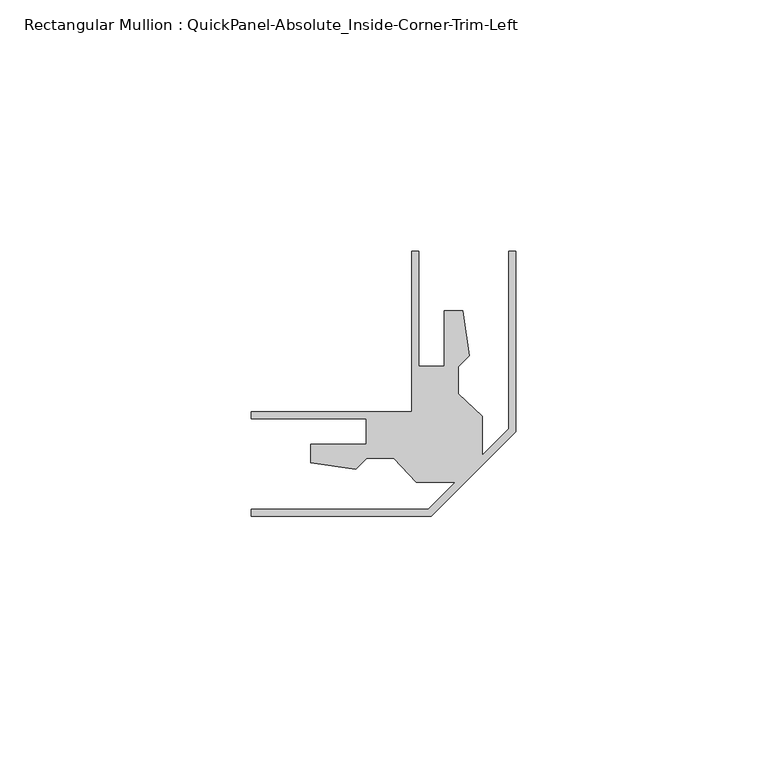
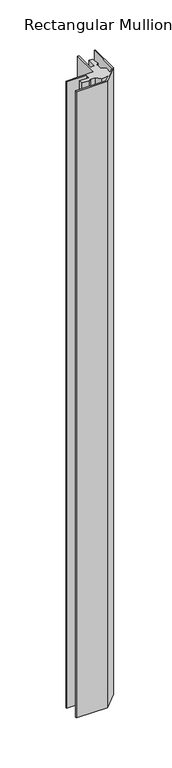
"""IFC4 building model written with IfcOpenShell, lengths in millimetres: member geometry, Rectangular Mullion : QuickPanel-Absolute_Inside-Corner-Trim-Left."""

from ifc_helpers import new_model, si_unit, frame, origin, place, context, project, spatial, polyline, outline, extrude, source, transform, mapped, element, save


def rectangular_mullion_quickpanel_absolute_inside_corner_trim_36ff3354(model_context):
    return source(origin(), model_context, "Body", "SweptSolid", [
        extrude(outline(polyline([(-52.7287461, -8.6243695), (-52.7287461, -7.2213769), (-17.4346146, -7.2213769), (-12.0632366, -1.8499989), (-19.8191321, -1.8499989), (-24.2846123, 2.9386423), (-29.7291112, 2.9386423), (-31.8901977, 0.7775558), (-40.8152941, 2.0318963), (-40.8152941, 5.7255034), (-29.8281143, 5.7255034), (-29.8281143, 10.7810495), (-52.7287461, 10.7810495), (-52.7287461, 12.1810781), (-20.7199597, 12.1810781), (-20.7199597, 44.1868662), (-19.319931, 44.1868662), (-19.319931, 21.2892327), (-14.2643849, 21.2892327), (-14.2643849, 32.2764126), (-10.5707778, 32.2764126), (-9.3164373, 23.3513162), (-11.4775238, 21.1902297), (-11.4775238, 15.7457308), (-6.6888826, 11.2802506), (-6.6888826, 3.5243551), (-1.4029926, 8.810245), (-1.4029926, 44.1868662), (0.0, 44.1868662), (0.0, 8.2333752), (-16.8577447, -8.6243695), (-52.7287461, -8.6243695)])), frame((0.0, 0.0, -763.2962426), z_axis=(0.0, 0.0, 1.0), x_axis=(1.0, 0.0, 0.0)), (0.0, 0.0, 1.0), 763.2962426),
    ])


if __name__ == "__main__":
    model = new_model("IFC4")
    model_context = context("Model", 3, world=origin())
    ifc_project = project(units=[si_unit("LENGTHUNIT", "METRE", prefix="MILLI")], contexts=[model_context])
    site = spatial("IfcSite", under=ifc_project)
    building = spatial("IfcBuilding", under=site)
    placement = place(None, origin())
    rectangular_mullion_quickpanel_absolute_inside_corner_trim_shape = rectangular_mullion_quickpanel_absolute_inside_corner_trim_36ff3354(model_context)
    element("IfcMember", 1, ObjectType="Rectangular Mullion : QuickPanel-Absolute_Inside-Corner-Trim-Left", at=placement, inside=building, context=model_context, shape_type="MappedRepresentation", body=[
        mapped(rectangular_mullion_quickpanel_absolute_inside_corner_trim_shape, transform((0.0, 0.0, 0.0), x_axis=(1.0, 0.0, 0.0), y_axis=(0.0, 1.0, 0.0), z_axis=(0.0, 0.0, 1.0))),
    ])
    save(model, "model.ifc")
